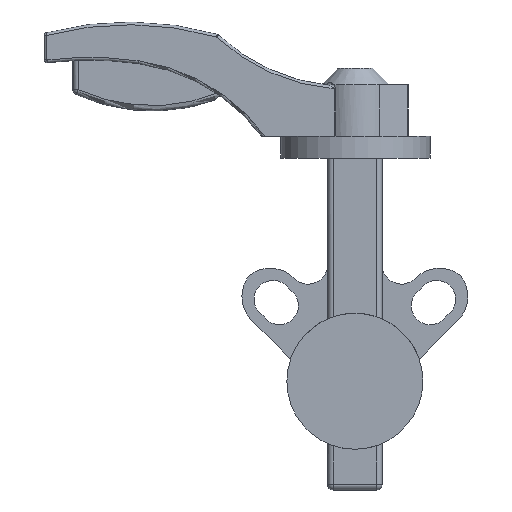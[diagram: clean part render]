
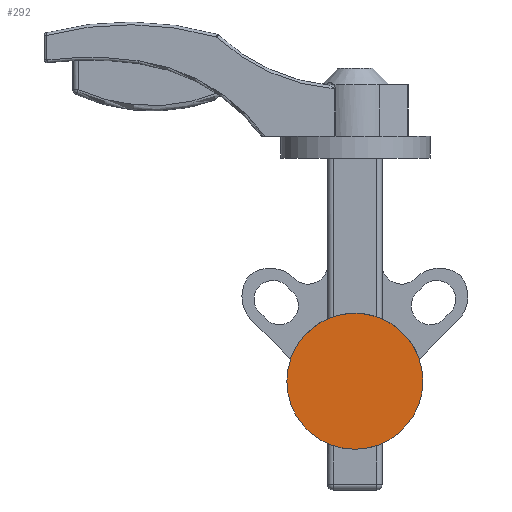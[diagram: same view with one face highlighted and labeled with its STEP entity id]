
A CAD part, left-side view. The second image highlights one B-rep face of the part: STEP entity #292.
In plain terms, the highlighted planar face has unit normal (-1, 0, 0).
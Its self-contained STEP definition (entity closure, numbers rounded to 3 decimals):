
#178=CIRCLE('',#1821,25.);
#292=ADVANCED_FACE('',(#442),#403,.F.);
#403=PLANE('',#1834);
#442=FACE_OUTER_BOUND('',#550,.T.);
#550=EDGE_LOOP('',(#711));
#711=ORIENTED_EDGE('',*,*,#1340,.T.);
#1183=VERTEX_POINT('',#2603);
#1340=EDGE_CURVE('',#1183,#1183,#178,.T.);
#1821=AXIS2_PLACEMENT_3D('',#2602,#2047,#2048);
#1834=AXIS2_PLACEMENT_3D('',#2797,#2093,#2094);
#2047=DIRECTION('',(-1.,0.,0.));
#2048=DIRECTION('',(0.,0.,1.));
#2093=DIRECTION('',(1.,0.,0.));
#2094=DIRECTION('',(0.,0.,-1.));
#2602=CARTESIAN_POINT('',(16.,0.,0.));
#2603=CARTESIAN_POINT('',(16.,0.,25.));
#2797=CARTESIAN_POINT('',(16.,0.,25.));
